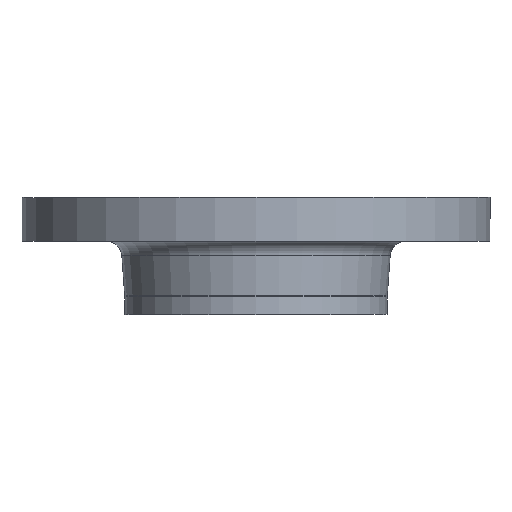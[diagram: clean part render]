
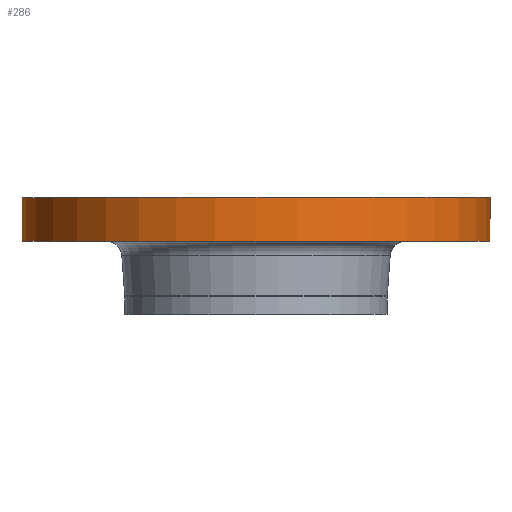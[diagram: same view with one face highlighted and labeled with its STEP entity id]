
A CAD part, front view. The second image highlights one B-rep face of the part: STEP entity #286.
In plain terms, the highlighted cylindrical face has radius 150 mm (diameter 300 mm), a partial arc.
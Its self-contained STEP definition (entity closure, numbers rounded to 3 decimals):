
#12 = CARTESIAN_POINT ( 'NONE',  ( -150., 0., 0. ) ) ;
#25 = CIRCLE ( 'NONE', #775, 150. ) ;
#31 = ORIENTED_EDGE ( 'NONE', *, *, #352, .F. ) ;
#37 = DIRECTION ( 'NONE',  ( 1., 0., 0. ) ) ;
#38 = ORIENTED_EDGE ( 'NONE', *, *, #330, .F. ) ;
#43 = ORIENTED_EDGE ( 'NONE', *, *, #349, .T. ) ;
#53 = ORIENTED_EDGE ( 'NONE', *, *, #337, .F. ) ;
#60 = DIRECTION ( 'NONE',  ( 0., 0., 1. ) ) ;
#62 = AXIS2_PLACEMENT_3D ( 'NONE', #527, #811, #37 ) ;
#124 = CYLINDRICAL_SURFACE ( 'NONE', #62, 150. ) ;
#135 = DIRECTION ( 'NONE',  ( 0., 0., -1. ) ) ;
#146 = DIRECTION ( 'NONE',  ( 0., 0., 1. ) ) ;
#155 = VERTEX_POINT ( 'NONE', #12 ) ;
#174 = CARTESIAN_POINT ( 'NONE',  ( 150., 0., 0. ) ) ;
#203 = CIRCLE ( 'NONE', #855, 150. ) ;
#205 = VECTOR ( 'NONE', #60, 1000. ) ;
#286 = ADVANCED_FACE ( 'NONE', ( #879 ), #124, .T. ) ;
#330 = EDGE_CURVE ( 'NONE', #865, #829, #203, .T. ) ;
#334 = DIRECTION ( 'NONE',  ( 1., 0., 0. ) ) ;
#337 = EDGE_CURVE ( 'NONE', #155, #492, #25, .T. ) ;
#349 = EDGE_CURVE ( 'NONE', #865, #492, #615, .T. ) ;
#352 = EDGE_CURVE ( 'NONE', #829, #155, #542, .T. ) ;
#442 = CARTESIAN_POINT ( 'NONE',  ( -150., 0., -28. ) ) ;
#492 = VERTEX_POINT ( 'NONE', #174 ) ;
#527 = CARTESIAN_POINT ( 'NONE',  ( 0., 0., -85. ) ) ;
#535 = DIRECTION ( 'NONE',  ( -1., 0., 0. ) ) ;
#542 = LINE ( 'NONE', #826, #205 ) ;
#615 = LINE ( 'NONE', #892, #818 ) ;
#628 = EDGE_LOOP ( 'NONE', ( #31, #38, #43, #53 ) ) ;
#754 = CARTESIAN_POINT ( 'NONE',  ( 0., 0., 0. ) ) ;
#775 = AXIS2_PLACEMENT_3D ( 'NONE', #754, #1012, #334 ) ;
#811 = DIRECTION ( 'NONE',  ( 0., 0., 1. ) ) ;
#818 = VECTOR ( 'NONE', #146, 1000. ) ;
#826 = CARTESIAN_POINT ( 'NONE',  ( -150., 0., -85. ) ) ;
#829 = VERTEX_POINT ( 'NONE', #442 ) ;
#855 = AXIS2_PLACEMENT_3D ( 'NONE', #886, #135, #535 ) ;
#865 = VERTEX_POINT ( 'NONE', #894 ) ;
#879 = FACE_OUTER_BOUND ( 'NONE', #628, .T. ) ;
#886 = CARTESIAN_POINT ( 'NONE',  ( 0., 0., -28. ) ) ;
#892 = CARTESIAN_POINT ( 'NONE',  ( 150., 0., -85. ) ) ;
#894 = CARTESIAN_POINT ( 'NONE',  ( 150., 0., -28. ) ) ;
#1012 = DIRECTION ( 'NONE',  ( 0., 0., 1. ) ) ;
